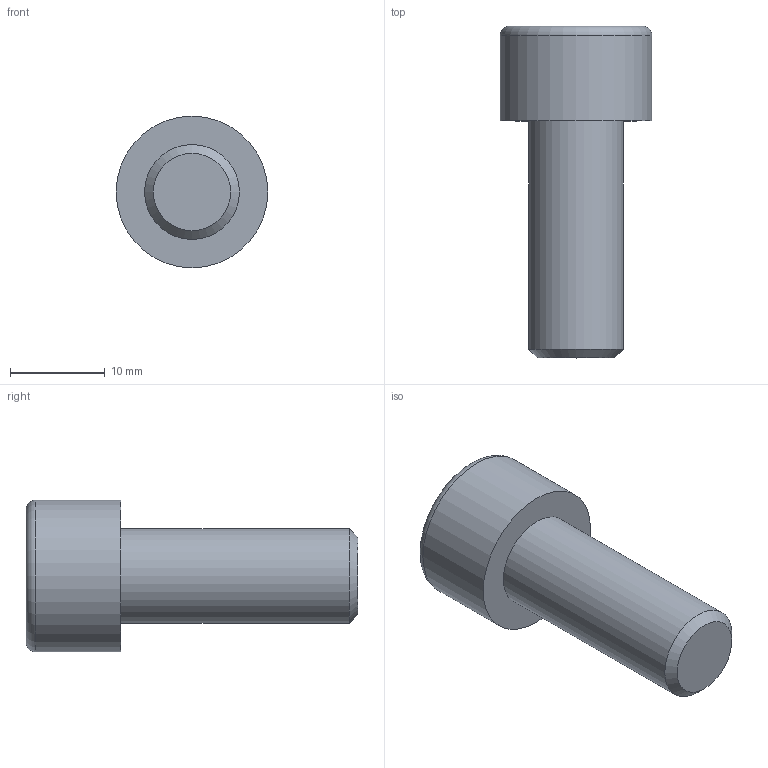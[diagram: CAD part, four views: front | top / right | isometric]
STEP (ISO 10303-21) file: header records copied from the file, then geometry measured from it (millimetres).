
FILE_DESCRIPTION(/* description */ (''),/* implementation_level */ '2;1');
FILE_NAME(/* name */ 'C:\Users\D\Documents\Inventor\各種小物\JIS\JIS B 1176 六角穴付きボルト\M10x25.stp',/* time_stamp */ '2022-05-09T18:52:17+09:00',/* author */ ('D'),/* organization */ (''),/* preprocessor_version */ 'ST-DEVELOPER v18',/* originating_system */ 'Autodesk Inventor 2020',/* authorisation */ '');
FILE_SCHEMA (('AUTOMOTIVE_DESIGN { 1 0 10303 214 3 1 1 }'));
Length unit declared in the file: millimetre
Products named in the file (1): M1.6x2.5
Bounding box: 16 x 35 x 16 mm (x, y, z)
Volume: 3616.1 mm3; surface area: 1803.8 mm2
Topology: 1 solids, 1 shells, 14 faces, 33 edges, 22 vertices
Faces by surface type: plane 9, cone 2, cylinder 2, torus 1
Full cylindrical faces by diameter (mm): 10 x1, 16 x1
Entity records: 435 total; most frequent: CARTESIAN_POINT 83, ORIENTED_EDGE 64, DIRECTION 64, EDGE_CURVE 32, AXIS2_PLACEMENT_3D 24, VERTEX_POINT 22, EDGE_LOOP 16, LINE 16
